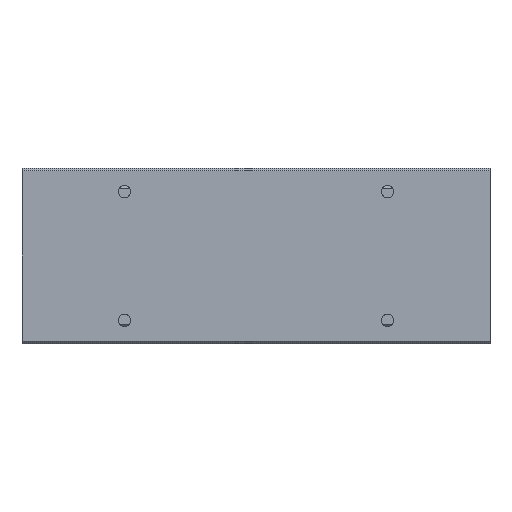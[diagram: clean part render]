
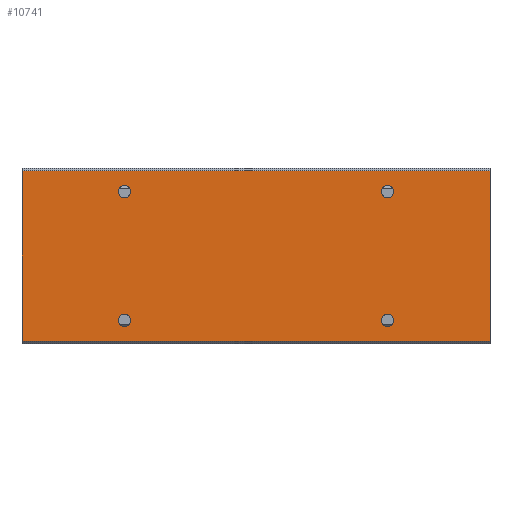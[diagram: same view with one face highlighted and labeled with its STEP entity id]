
A CAD part, front view. The second image highlights one B-rep face of the part: STEP entity #10741.
In plain terms, the highlighted planar face has unit normal (0, -1, 0).
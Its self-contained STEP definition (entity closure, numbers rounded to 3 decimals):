
#397=CIRCLE('',#11382,1.057);
#398=CIRCLE('',#11387,1.057);
#406=CIRCLE('',#11401,1.057);
#407=CIRCLE('',#11406,1.057);
#1555=ORIENTED_EDGE('',*,*,#4412,.F.);
#1556=ORIENTED_EDGE('',*,*,#4408,.F.);
#1557=ORIENTED_EDGE('',*,*,#4391,.F.);
#1558=ORIENTED_EDGE('',*,*,#4387,.F.);
#1559=ORIENTED_EDGE('',*,*,#4364,.T.);
#1560=ORIENTED_EDGE('',*,*,#4807,.F.);
#1561=ORIENTED_EDGE('',*,*,#4347,.F.);
#1562=ORIENTED_EDGE('',*,*,#4806,.T.);
#4347=EDGE_CURVE('',#5983,#5984,#7097,.T.);
#4364=EDGE_CURVE('',#6001,#6000,#7114,.T.);
#4387=EDGE_CURVE('',#6019,#6019,#397,.T.);
#4391=EDGE_CURVE('',#6022,#6022,#398,.T.);
#4408=EDGE_CURVE('',#6034,#6034,#406,.T.);
#4412=EDGE_CURVE('',#6037,#6037,#407,.T.);
#4806=EDGE_CURVE('',#5983,#6001,#7278,.T.);
#4807=EDGE_CURVE('',#5984,#6000,#7279,.T.);
#5983=VERTEX_POINT('',#16241);
#5984=VERTEX_POINT('',#16243);
#6000=VERTEX_POINT('',#16276);
#6001=VERTEX_POINT('',#16278);
#6019=VERTEX_POINT('',#16322);
#6022=VERTEX_POINT('',#16330);
#6034=VERTEX_POINT('',#16362);
#6037=VERTEX_POINT('',#16370);
#7097=LINE('',#16242,#8057);
#7114=LINE('',#16277,#8074);
#7278=LINE('',#17156,#8238);
#7279=LINE('',#17158,#8239);
#8057=VECTOR('',#12685,1000.);
#8074=VECTOR('',#12704,1000.);
#8238=VECTOR('',#13446,1000.);
#8239=VECTOR('',#13449,1000.);
#9049=EDGE_LOOP('',(#1555));
#9050=EDGE_LOOP('',(#1556));
#9051=EDGE_LOOP('',(#1557));
#9052=EDGE_LOOP('',(#1558));
#9053=EDGE_LOOP('',(#1559,#1560,#1561,#1562));
#9779=FACE_BOUND('',#9049,.T.);
#9780=FACE_BOUND('',#9050,.T.);
#9781=FACE_BOUND('',#9051,.T.);
#9782=FACE_BOUND('',#9052,.T.);
#9783=FACE_BOUND('',#9053,.T.);
#10470=PLANE('',#11666);
#10741=ADVANCED_FACE('',(#9779,#9780,#9781,#9782,#9783),#10470,.F.);
#11382=AXIS2_PLACEMENT_3D('',#16321,#12735,#12736);
#11387=AXIS2_PLACEMENT_3D('',#16329,#12745,#12746);
#11401=AXIS2_PLACEMENT_3D('',#16361,#12779,#12780);
#11406=AXIS2_PLACEMENT_3D('',#16369,#12789,#12790);
#11666=AXIS2_PLACEMENT_3D('',#17157,#13447,#13448);
#12685=DIRECTION('',(0.,0.,-1.));
#12704=DIRECTION('',(0.,0.,-1.));
#12735=DIRECTION('',(0.,-1.,0.));
#12736=DIRECTION('',(0.,0.,-1.));
#12745=DIRECTION('',(0.,-1.,0.));
#12746=DIRECTION('',(0.,0.,-1.));
#12779=DIRECTION('',(0.,-1.,0.));
#12780=DIRECTION('',(0.,0.,-1.));
#12789=DIRECTION('',(0.,-1.,0.));
#12790=DIRECTION('',(0.,0.,-1.));
#13446=DIRECTION('',(-1.,0.,0.));
#13447=DIRECTION('',(0.,1.,0.));
#13448=DIRECTION('',(0.,0.,1.));
#13449=DIRECTION('',(-1.,0.,0.));
#16241=CARTESIAN_POINT('',(80.,0.,14.55));
#16242=CARTESIAN_POINT('',(80.,0.,14.55));
#16243=CARTESIAN_POINT('',(80.,0.,-14.55));
#16276=CARTESIAN_POINT('',(0.,0.,-14.55));
#16277=CARTESIAN_POINT('',(0.,0.,14.55));
#16278=CARTESIAN_POINT('',(0.,0.,14.55));
#16321=CARTESIAN_POINT('',(17.5,0.,-11.));
#16322=CARTESIAN_POINT('',(17.5,0.,-12.057));
#16329=CARTESIAN_POINT('',(62.5,0.,-11.));
#16330=CARTESIAN_POINT('',(62.5,0.,-12.057));
#16361=CARTESIAN_POINT('',(17.5,0.,11.));
#16362=CARTESIAN_POINT('',(17.5,0.,9.944));
#16369=CARTESIAN_POINT('',(62.5,0.,11.));
#16370=CARTESIAN_POINT('',(62.5,0.,9.944));
#17156=CARTESIAN_POINT('',(80.,0.,14.55));
#17157=CARTESIAN_POINT('',(80.,0.,14.55));
#17158=CARTESIAN_POINT('',(80.,0.,-14.55));
